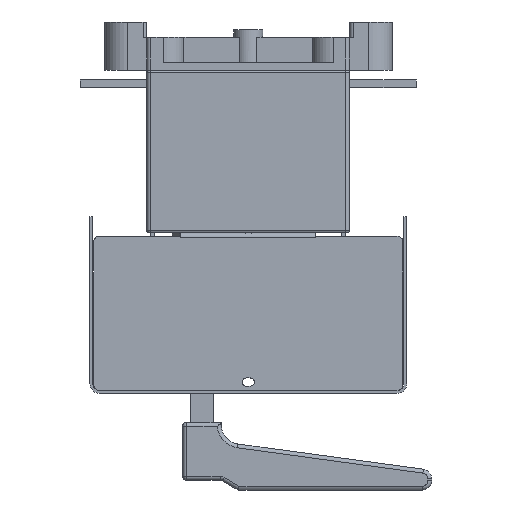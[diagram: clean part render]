
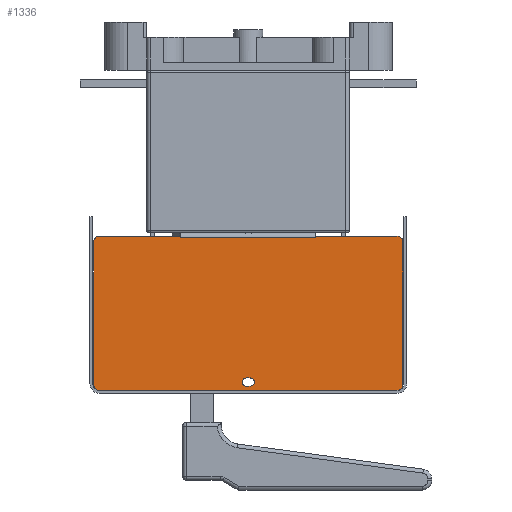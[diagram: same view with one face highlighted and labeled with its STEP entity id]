
A CAD part, left-side view. The second image highlights one B-rep face of the part: STEP entity #1336.
In plain terms, the highlighted planar face has unit normal (-1, 0, 0).
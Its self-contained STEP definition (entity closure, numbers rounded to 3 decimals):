
#188=FACE_BOUND('',#4100,.T.);
#189=FACE_BOUND('',#4101,.T.);
#1336=ADVANCED_FACE('',(#188,#189),#2166,.T.);
#2166=PLANE('',#20869);
#4100=EDGE_LOOP('',(#8807,#8808,#8809,#8810,#8811,#8812,#8813,#8814,#8815,
#8816,#8817,#8818,#8819,#8820));
#4101=EDGE_LOOP('',(#8821,#8822,#8823,#8824));
#5037=CIRCLE('',#20847,2.1);
#5039=CIRCLE('',#20851,2.1);
#5041=CIRCLE('',#20855,3.);
#5043=CIRCLE('',#20858,3.);
#5045=CIRCLE('',#20862,3.);
#5047=CIRCLE('',#20866,3.);
#8807=ORIENTED_EDGE('',*,*,#14623,.F.);
#8808=ORIENTED_EDGE('',*,*,#14624,.T.);
#8809=ORIENTED_EDGE('',*,*,#14625,.T.);
#8810=ORIENTED_EDGE('',*,*,#14626,.T.);
#8811=ORIENTED_EDGE('',*,*,#14627,.F.);
#8812=ORIENTED_EDGE('',*,*,#14615,.T.);
#8813=ORIENTED_EDGE('',*,*,#14620,.T.);
#8814=ORIENTED_EDGE('',*,*,#14603,.T.);
#8815=ORIENTED_EDGE('',*,*,#14606,.T.);
#8816=ORIENTED_EDGE('',*,*,#14581,.T.);
#8817=ORIENTED_EDGE('',*,*,#14609,.T.);
#8818=ORIENTED_EDGE('',*,*,#14612,.T.);
#8819=ORIENTED_EDGE('',*,*,#14614,.T.);
#8820=ORIENTED_EDGE('',*,*,#14589,.T.);
#8821=ORIENTED_EDGE('',*,*,#14593,.T.);
#8822=ORIENTED_EDGE('',*,*,#14597,.T.);
#8823=ORIENTED_EDGE('',*,*,#14600,.T.);
#8824=ORIENTED_EDGE('',*,*,#14622,.T.);
#11816=VERTEX_POINT('',#29545);
#11861=VERTEX_POINT('',#29642);
#12145=VERTEX_POINT('',#30733);
#12146=VERTEX_POINT('',#30735);
#12149=VERTEX_POINT('',#30742);
#12150=VERTEX_POINT('',#30744);
#12152=VERTEX_POINT('',#30750);
#12154=VERTEX_POINT('',#30756);
#12157=VERTEX_POINT('',#30763);
#12158=VERTEX_POINT('',#30765);
#12160=VERTEX_POINT('',#30774);
#12162=VERTEX_POINT('',#30780);
#12163=VERTEX_POINT('',#30787);
#12164=VERTEX_POINT('',#30788);
#12167=VERTEX_POINT('',#30802);
#12168=VERTEX_POINT('',#30804);
#12169=VERTEX_POINT('',#30806);
#12170=VERTEX_POINT('',#30808);
#14581=EDGE_CURVE('',#11816,#11861,#16984,.T.);
#14589=EDGE_CURVE('',#12146,#12145,#16991,.T.);
#14593=EDGE_CURVE('',#12150,#12149,#5037,.T.);
#14597=EDGE_CURVE('',#12149,#12152,#16997,.T.);
#14600=EDGE_CURVE('',#12152,#12154,#5039,.T.);
#14603=EDGE_CURVE('',#12158,#12157,#17001,.T.);
#14606=EDGE_CURVE('',#12157,#11816,#5041,.T.);
#14609=EDGE_CURVE('',#11861,#12160,#5043,.T.);
#14612=EDGE_CURVE('',#12160,#12162,#17006,.T.);
#14614=EDGE_CURVE('',#12162,#12146,#5045,.T.);
#14615=EDGE_CURVE('',#12163,#12164,#17007,.T.);
#14620=EDGE_CURVE('',#12164,#12158,#5047,.T.);
#14622=EDGE_CURVE('',#12154,#12150,#17012,.T.);
#14623=EDGE_CURVE('',#12167,#12145,#17013,.T.);
#14624=EDGE_CURVE('',#12167,#12168,#17014,.T.);
#14625=EDGE_CURVE('',#12168,#12169,#17015,.T.);
#14626=EDGE_CURVE('',#12169,#12170,#17016,.T.);
#14627=EDGE_CURVE('',#12163,#12170,#17017,.T.);
#16984=LINE('',#30716,#19053);
#16991=LINE('',#30734,#19060);
#16997=LINE('',#30751,#19066);
#17001=LINE('',#30764,#19070);
#17006=LINE('',#30781,#19075);
#17007=LINE('',#30786,#19076);
#17012=LINE('',#30799,#19081);
#17013=LINE('',#30801,#19082);
#17014=LINE('',#30803,#19083);
#17015=LINE('',#30805,#19084);
#17016=LINE('',#30807,#19085);
#17017=LINE('',#30809,#19086);
#19053=VECTOR('',#24956,1.);
#19060=VECTOR('',#24969,1.);
#19066=VECTOR('',#24983,1.);
#19070=VECTOR('',#24995,1.);
#19075=VECTOR('',#25014,1.);
#19076=VECTOR('',#25023,1.);
#19081=VECTOR('',#25036,1.);
#19082=VECTOR('',#25039,1.);
#19083=VECTOR('',#25040,1.);
#19084=VECTOR('',#25041,1.);
#19085=VECTOR('',#25042,1.);
#19086=VECTOR('',#25043,1.);
#20847=AXIS2_PLACEMENT_3D('',#30743,#24976,#24977);
#20851=AXIS2_PLACEMENT_3D('',#30757,#24989,#24990);
#20855=AXIS2_PLACEMENT_3D('',#30769,#25001,#25002);
#20858=AXIS2_PLACEMENT_3D('',#30775,#25008,#25009);
#20862=AXIS2_PLACEMENT_3D('',#30784,#25019,#25020);
#20866=AXIS2_PLACEMENT_3D('',#30796,#25031,#25032);
#20869=AXIS2_PLACEMENT_3D('',#30810,#25044,#25045);
#24956=DIRECTION('',(0.,-1.,0.));
#24969=DIRECTION('',(0.,1.,0.));
#24976=DIRECTION('',(1.,0.,0.));
#24977=DIRECTION('',(0.,1.,0.));
#24983=DIRECTION('',(0.,-1.,0.));
#24989=DIRECTION('',(1.,0.,0.));
#24990=DIRECTION('',(0.,1.,0.));
#24995=DIRECTION('',(0.,0.,-1.));
#25001=DIRECTION('',(-1.,0.,0.));
#25002=DIRECTION('',(0.,1.,0.));
#25008=DIRECTION('',(-1.,0.,0.));
#25009=DIRECTION('',(0.,1.,0.));
#25014=DIRECTION('',(0.,0.,1.));
#25019=DIRECTION('',(-1.,0.,0.));
#25020=DIRECTION('',(0.,1.,0.));
#25023=DIRECTION('',(0.,1.,0.));
#25031=DIRECTION('',(-1.,0.,0.));
#25032=DIRECTION('',(0.,1.,0.));
#25036=DIRECTION('',(0.,1.,0.));
#25039=DIRECTION('',(0.,0.,1.));
#25040=DIRECTION('',(0.,1.,0.));
#25041=DIRECTION('',(0.,1.,0.));
#25042=DIRECTION('',(0.,1.,0.));
#25043=DIRECTION('',(0.,0.,-1.));
#25044=DIRECTION('',(-1.,0.,0.));
#25045=DIRECTION('',(0.,-1.,0.));
#29545=CARTESIAN_POINT('',(-189.3,77.,-165.8));
#29642=CARTESIAN_POINT('',(-189.3,-77.,-165.8));
#30716=CARTESIAN_POINT('',(-189.3,77.,-165.8));
#30733=CARTESIAN_POINT('',(-189.3,-35.002,-85.8));
#30734=CARTESIAN_POINT('',(-189.3,-77.,-85.8));
#30735=CARTESIAN_POINT('',(-189.3,-77.,-85.8));
#30742=CARTESIAN_POINT('',(-189.3,1.,-159.3));
#30743=CARTESIAN_POINT('',(-189.3,1.,-161.4));
#30744=CARTESIAN_POINT('',(-189.3,1.,-163.5));
#30750=CARTESIAN_POINT('',(-189.3,-1.,-159.3));
#30751=CARTESIAN_POINT('',(-189.3,1.,-159.3));
#30756=CARTESIAN_POINT('',(-189.3,-1.,-163.5));
#30757=CARTESIAN_POINT('',(-189.3,-1.,-161.4));
#30763=CARTESIAN_POINT('',(-189.3,80.,-162.8));
#30764=CARTESIAN_POINT('',(-189.3,80.,-88.8));
#30765=CARTESIAN_POINT('',(-189.3,80.,-88.8));
#30769=CARTESIAN_POINT('',(-189.3,77.,-162.8));
#30774=CARTESIAN_POINT('',(-189.3,-80.,-162.8));
#30775=CARTESIAN_POINT('',(-189.3,-77.,-162.8));
#30780=CARTESIAN_POINT('',(-189.3,-80.,-88.8));
#30781=CARTESIAN_POINT('',(-189.3,-80.,-162.8));
#30784=CARTESIAN_POINT('',(-189.3,-77.,-88.8));
#30786=CARTESIAN_POINT('',(-189.3,-77.,-85.8));
#30787=CARTESIAN_POINT('',(-189.3,35.002,-85.8));
#30788=CARTESIAN_POINT('',(-189.3,77.,-85.8));
#30796=CARTESIAN_POINT('',(-189.3,77.,-88.8));
#30799=CARTESIAN_POINT('',(-189.3,-1.,-163.5));
#30801=CARTESIAN_POINT('',(-189.3,-35.002,-162.8));
#30802=CARTESIAN_POINT('',(-189.3,-35.002,-86.8));
#30803=CARTESIAN_POINT('',(-189.3,77.,-86.8));
#30804=CARTESIAN_POINT('',(-189.3,-35.,-86.8));
#30805=CARTESIAN_POINT('',(-189.3,50.5,-86.8));
#30806=CARTESIAN_POINT('',(-189.3,35.,-86.8));
#30807=CARTESIAN_POINT('',(-189.3,77.,-86.8));
#30808=CARTESIAN_POINT('',(-189.3,35.002,-86.8));
#30809=CARTESIAN_POINT('',(-189.3,35.002,-162.8));
#30810=CARTESIAN_POINT('',(-189.3,77.,-162.8));
